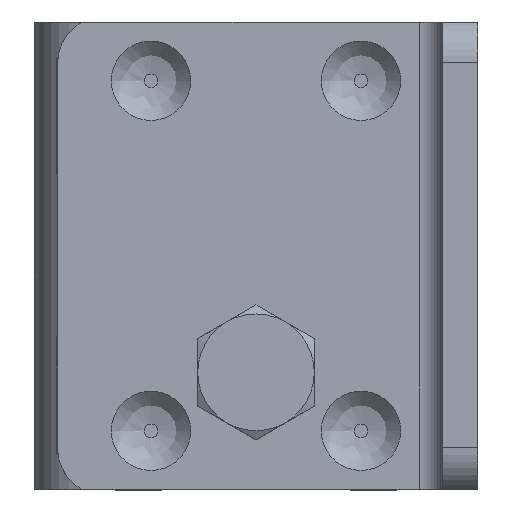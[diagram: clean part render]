
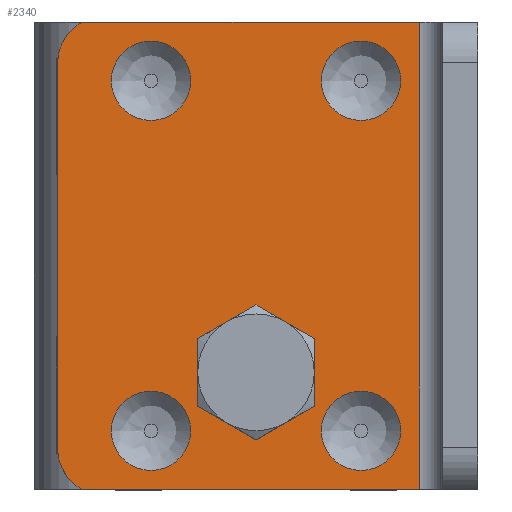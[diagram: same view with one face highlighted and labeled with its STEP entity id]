
A CAD part, top view. The second image highlights one B-rep face of the part: STEP entity #2340.
In plain terms, the highlighted planar face has unit normal (0, 0, 1).
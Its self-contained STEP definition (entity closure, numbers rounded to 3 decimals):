
#50=FACE_BOUND('',#380,.T.);
#51=FACE_BOUND('',#381,.T.);
#52=FACE_BOUND('',#382,.T.);
#53=FACE_BOUND('',#383,.T.);
#54=FACE_BOUND('',#384,.T.);
#222=FACE_OUTER_BOUND('',#379,.T.);
#379=EDGE_LOOP('',(#1703,#1704,#1705,#1706,#1707,#1708));
#380=EDGE_LOOP('',(#1709,#1710));
#381=EDGE_LOOP('',(#1711,#1712));
#382=EDGE_LOOP('',(#1713,#1714));
#383=EDGE_LOOP('',(#1715,#1716));
#384=EDGE_LOOP('',(#1717));
#562=CIRCLE('',#2513,3.4);
#563=CIRCLE('',#2514,3.4);
#565=CIRCLE('',#2517,3.4);
#566=CIRCLE('',#2518,3.4);
#568=CIRCLE('',#2521,3.4);
#569=CIRCLE('',#2522,3.4);
#571=CIRCLE('',#2525,3.4);
#572=CIRCLE('',#2526,3.4);
#578=CIRCLE('',#2539,4.);
#579=CIRCLE('',#2540,4.);
#580=CIRCLE('',#2541,4.);
#687=LINE('',#3874,#875);
#691=LINE('',#3881,#879);
#692=LINE('',#3886,#880);
#693=LINE('',#3889,#881);
#875=VECTOR('',#2920,40.);
#879=VECTOR('',#2926,28.936);
#880=VECTOR('',#2931,33.);
#881=VECTOR('',#2934,28.936);
#1067=VERTEX_POINT('',#3731);
#1068=VERTEX_POINT('',#3732);
#1070=VERTEX_POINT('',#3768);
#1071=VERTEX_POINT('',#3769);
#1073=VERTEX_POINT('',#3805);
#1074=VERTEX_POINT('',#3806);
#1076=VERTEX_POINT('',#3842);
#1077=VERTEX_POINT('',#3843);
#1082=VERTEX_POINT('',#3858);
#1085=VERTEX_POINT('',#3865);
#1088=VERTEX_POINT('',#3879);
#1089=VERTEX_POINT('',#3883);
#1090=VERTEX_POINT('',#3885);
#1091=VERTEX_POINT('',#3887);
#1092=VERTEX_POINT('',#3890);
#1288=EDGE_CURVE('',#1067,#1068,#562,.T.);
#1289=EDGE_CURVE('',#1068,#1067,#563,.T.);
#1292=EDGE_CURVE('',#1070,#1071,#565,.T.);
#1293=EDGE_CURVE('',#1071,#1070,#566,.T.);
#1296=EDGE_CURVE('',#1073,#1074,#568,.T.);
#1297=EDGE_CURVE('',#1074,#1073,#569,.T.);
#1300=EDGE_CURVE('',#1076,#1077,#571,.T.);
#1301=EDGE_CURVE('',#1077,#1076,#572,.T.);
#1314=EDGE_CURVE('',#1082,#1085,#687,.T.);
#1318=EDGE_CURVE('',#1085,#1088,#691,.T.);
#1319=EDGE_CURVE('',#1088,#1089,#578,.T.);
#1320=EDGE_CURVE('',#1089,#1090,#692,.T.);
#1321=EDGE_CURVE('',#1090,#1091,#579,.T.);
#1322=EDGE_CURVE('',#1091,#1082,#693,.T.);
#1323=EDGE_CURVE('',#1092,#1092,#580,.T.);
#1703=ORIENTED_EDGE('',*,*,#1314,.T.);
#1704=ORIENTED_EDGE('',*,*,#1318,.T.);
#1705=ORIENTED_EDGE('',*,*,#1319,.T.);
#1706=ORIENTED_EDGE('',*,*,#1320,.T.);
#1707=ORIENTED_EDGE('',*,*,#1321,.T.);
#1708=ORIENTED_EDGE('',*,*,#1322,.T.);
#1709=ORIENTED_EDGE('',*,*,#1292,.T.);
#1710=ORIENTED_EDGE('',*,*,#1293,.T.);
#1711=ORIENTED_EDGE('',*,*,#1288,.T.);
#1712=ORIENTED_EDGE('',*,*,#1289,.T.);
#1713=ORIENTED_EDGE('',*,*,#1296,.T.);
#1714=ORIENTED_EDGE('',*,*,#1297,.T.);
#1715=ORIENTED_EDGE('',*,*,#1300,.T.);
#1716=ORIENTED_EDGE('',*,*,#1301,.T.);
#1717=ORIENTED_EDGE('',*,*,#1323,.T.);
#2224=PLANE('',#2538);
#2340=ADVANCED_FACE('',(#222,#50,#51,#52,#53,#54),#2224,.T.);
#2513=AXIS2_PLACEMENT_3D('',#3733,#2866,#2867);
#2514=AXIS2_PLACEMENT_3D('',#3734,#2868,#2869);
#2517=AXIS2_PLACEMENT_3D('',#3770,#2874,#2875);
#2518=AXIS2_PLACEMENT_3D('',#3771,#2876,#2877);
#2521=AXIS2_PLACEMENT_3D('',#3807,#2882,#2883);
#2522=AXIS2_PLACEMENT_3D('',#3808,#2884,#2885);
#2525=AXIS2_PLACEMENT_3D('',#3844,#2890,#2891);
#2526=AXIS2_PLACEMENT_3D('',#3845,#2892,#2893);
#2538=AXIS2_PLACEMENT_3D('',#3882,#2927,#2928);
#2539=AXIS2_PLACEMENT_3D('',#3884,#2929,#2930);
#2540=AXIS2_PLACEMENT_3D('',#3888,#2932,#2933);
#2541=AXIS2_PLACEMENT_3D('',#3891,#2935,#2936);
#2866=DIRECTION('center_axis',(0.,0.,-1.));
#2867=DIRECTION('ref_axis',(-1.,0.,0.));
#2868=DIRECTION('center_axis',(0.,0.,-1.));
#2869=DIRECTION('ref_axis',(-1.,0.,0.));
#2874=DIRECTION('center_axis',(0.,0.,-1.));
#2875=DIRECTION('ref_axis',(-1.,0.,0.));
#2876=DIRECTION('center_axis',(0.,0.,-1.));
#2877=DIRECTION('ref_axis',(-1.,0.,0.));
#2882=DIRECTION('center_axis',(0.,0.,-1.));
#2883=DIRECTION('ref_axis',(-1.,0.,0.));
#2884=DIRECTION('center_axis',(0.,0.,-1.));
#2885=DIRECTION('ref_axis',(-1.,0.,0.));
#2890=DIRECTION('center_axis',(0.,0.,-1.));
#2891=DIRECTION('ref_axis',(-1.,0.,0.));
#2892=DIRECTION('center_axis',(0.,0.,-1.));
#2893=DIRECTION('ref_axis',(-1.,0.,0.));
#2920=DIRECTION('',(0.,1.,0.));
#2926=DIRECTION('',(-1.,0.,0.));
#2927=DIRECTION('center_axis',(0.,0.,1.));
#2928=DIRECTION('ref_axis',(1.,0.,0.));
#2929=DIRECTION('center_axis',(0.,0.,1.));
#2930=DIRECTION('ref_axis',(-0.484,0.875,0.));
#2931=DIRECTION('',(0.,-1.,0.));
#2932=DIRECTION('center_axis',(0.,0.,1.));
#2933=DIRECTION('ref_axis',(-1.,0.,0.));
#2934=DIRECTION('',(1.,0.,0.));
#2935=DIRECTION('center_axis',(0.,0.,-1.));
#2936=DIRECTION('ref_axis',(-1.,0.,0.));
#3731=CARTESIAN_POINT('',(-34.6,-15.,0.));
#3732=CARTESIAN_POINT('',(-41.4,-15.,0.));
#3733=CARTESIAN_POINT('Origin',(-38.,-15.,0.));
#3734=CARTESIAN_POINT('Origin',(-38.,-15.,0.));
#3768=CARTESIAN_POINT('',(-16.6,-15.,0.));
#3769=CARTESIAN_POINT('',(-23.4,-15.,0.));
#3770=CARTESIAN_POINT('Origin',(-20.,-15.,0.));
#3771=CARTESIAN_POINT('Origin',(-20.,-15.,0.));
#3805=CARTESIAN_POINT('',(-16.6,15.,0.));
#3806=CARTESIAN_POINT('',(-23.4,15.,0.));
#3807=CARTESIAN_POINT('Origin',(-20.,15.,0.));
#3808=CARTESIAN_POINT('Origin',(-20.,15.,0.));
#3842=CARTESIAN_POINT('',(-34.6,15.,0.));
#3843=CARTESIAN_POINT('',(-41.4,15.,0.));
#3844=CARTESIAN_POINT('Origin',(-38.,15.,0.));
#3845=CARTESIAN_POINT('Origin',(-38.,15.,0.));
#3858=CARTESIAN_POINT('',(-15.,-20.,0.));
#3865=CARTESIAN_POINT('',(-15.,20.,0.));
#3874=CARTESIAN_POINT('',(-15.,10.,0.));
#3879=CARTESIAN_POINT('',(-43.936,20.,0.));
#3881=CARTESIAN_POINT('',(7.936,20.,0.));
#3882=CARTESIAN_POINT('Origin',(-18.,0.,0.));
#3883=CARTESIAN_POINT('',(-46.,16.5,0.));
#3884=CARTESIAN_POINT('Origin',(-42.,16.5,0.));
#3885=CARTESIAN_POINT('',(-46.,-16.5,0.));
#3886=CARTESIAN_POINT('',(-46.,16.5,0.));
#3887=CARTESIAN_POINT('',(-43.936,-20.,0.));
#3888=CARTESIAN_POINT('Origin',(-42.,-16.5,0.));
#3889=CARTESIAN_POINT('',(-43.936,-20.,0.));
#3890=CARTESIAN_POINT('',(-25.,-10.,0.));
#3891=CARTESIAN_POINT('Origin',(-29.,-10.,0.));
